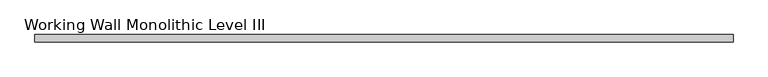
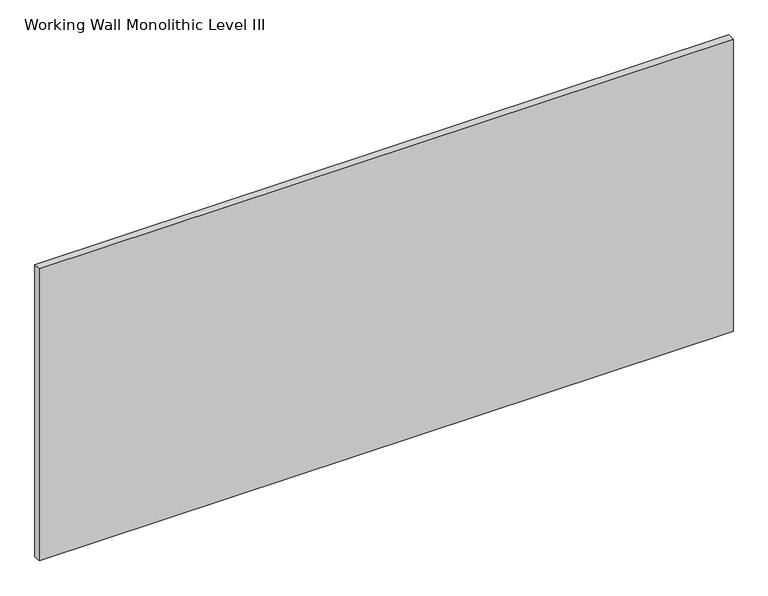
"""IFC4 building model written with IfcOpenShell, lengths in millimetres: proxy geometry, Panel-Fascia-Teknion-Altos-Standard : Working Wall Monolithic Level III."""

from ifc_helpers import new_model, si_unit, frame, origin, place, context, project, spatial, polyline, outline, extrude, source, transform, mapped, element, save


def working_wall_monolithic_level_iii_353f8d2e(model_context):
    return source(origin(), model_context, "Body", "SweptSolid", [
        extrude(outline(polyline([(904.2300781, 9.525), (904.2300781, -9.525), (-904.2300781, -9.525), (-904.2300781, 9.525), (904.2300781, 9.525)])), frame((0.0, 0.0, 3.175), z_axis=(0.0, 0.0, 1.0), x_axis=(1.0, 0.0, 0.0)), (0.0, 0.0, 1.0), 804.418),
    ])


if __name__ == "__main__":
    model = new_model("IFC4")
    model_context = context("Model", 3, world=origin())
    ifc_project = project(units=[si_unit("LENGTHUNIT", "METRE", prefix="MILLI")], contexts=[model_context])
    site = spatial("IfcSite", under=ifc_project)
    building = spatial("IfcBuilding", under=site)
    placement = place(None, origin())
    working_wall_monolithic_level_iii_shape = working_wall_monolithic_level_iii_353f8d2e(model_context)
    element("IfcBuildingElementProxy", 1, Name="Panel-Fascia-Teknion-Altos-Standard : Working Wall Monolithic Level III", ObjectType="Panel-Fascia-Teknion-Altos-Standard : Working Wall Monolithic Level III", at=placement, inside=building, context=model_context, shape_type="MappedRepresentation", body=[
        mapped(working_wall_monolithic_level_iii_shape, transform((0.0, 0.0, 0.0), x_axis=(1.0, 0.0, 0.0), y_axis=(0.0, 1.0, 0.0), z_axis=(0.0, 0.0, 1.0))),
    ])
    save(model, "model.ifc")
